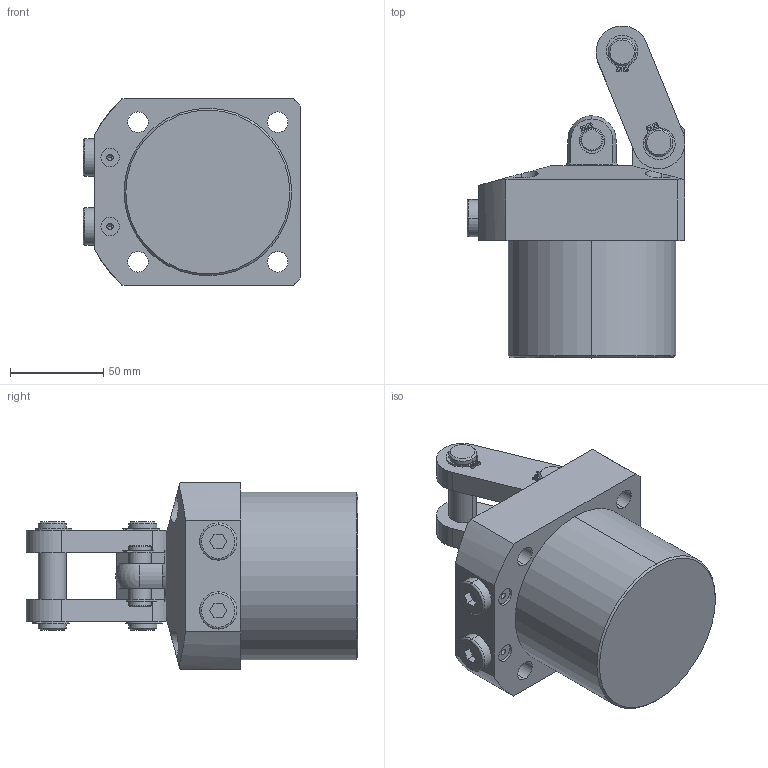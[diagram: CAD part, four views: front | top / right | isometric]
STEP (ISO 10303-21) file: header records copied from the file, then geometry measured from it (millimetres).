
FILE_DESCRIPTION (( 'STEP AP203' ), '1' );
FILE_NAME ('4171 721 C.STEP', '2017-11-25T11:24:50', ( '' ), ( '' ), 'SwSTEP 2.0', 'SolidWorks 2015', '' );
FILE_SCHEMA (( 'CONFIG_CONTROL_DESIGN' ));
Length unit declared in the file: millimetre
Products named in the file (8): PR; LINK; PIN 1; PIN 2; (normal) external_is_IS 3075 NE- 12; (normal) external_is_IS 3075 NE- 15; 4171 721 C; BODY_4171 721 C
Assembly tree (13 placements, depth 2):
  4171 721 C
    BODY_4171 721 C
    PR
    LINK  x2
    PIN 1
    PIN 2  x2
    (normal) external_is_IS 3075 NE- 12  x2
    (normal) external_is_IS 3075 NE- 15  x4
Bounding box: 117 x 178.14 x 100 mm (x, y, z)
Volume: 878823.5 mm3; surface area: 94947.2 mm2
Topology: 13 solids, 13 shells, 340 faces, 836 edges, 539 vertices
Faces by surface type: cylinder 173, plane 121, cone 40, torus 4, sphere 2
Entity records: 7618 total; most frequent: CARTESIAN_POINT 1291, DIRECTION 1196, ORIENTED_EDGE 1054, EDGE_CURVE 527, AXIS2_PLACEMENT_3D 467, VERTEX_POINT 338, EDGE_LOOP 265, VECTOR 262
